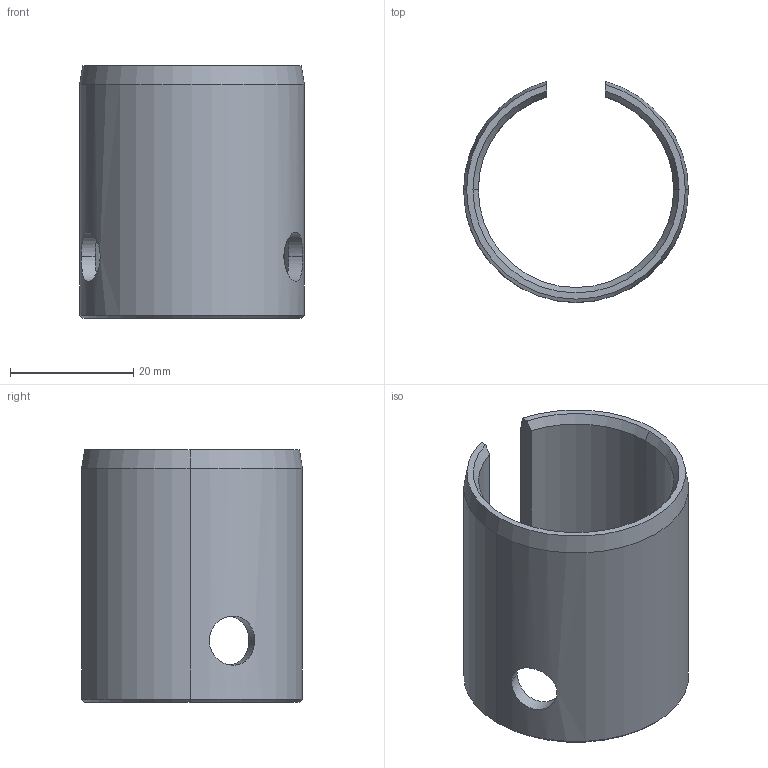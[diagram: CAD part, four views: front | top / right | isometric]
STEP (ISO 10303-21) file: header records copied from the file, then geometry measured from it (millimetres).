
FILE_DESCRIPTION (( 'STEP AP203' ), '1' );
FILE_NAME ('KBSH053P20.STEP', '2023-08-01T05:20:25', ( '' ), ( '' ), 'SwSTEP 2.0', 'SolidWorks 2017', '' );
FILE_SCHEMA (( 'CONFIG_CONTROL_DESIGN' ));
Length unit declared in the file: millimetre
Products named in the file (1): KBSH053P20
Bounding box: 36.51 x 35.88 x 41 mm (x, y, z)
Volume: 9074.7 mm3; surface area: 8390.5 mm2
Topology: 1 solids, 1 shells, 26 faces, 64 edges, 40 vertices
Faces by surface type: cone 12, cylinder 10, plane 4
Entity records: 1105 total; most frequent: CARTESIAN_POINT 415, ORIENTED_EDGE 128, DIRECTION 126, EDGE_CURVE 64, AXIS2_PLACEMENT_3D 51, VERTEX_POINT 40, EDGE_LOOP 30, ADVANCED_FACE 26
